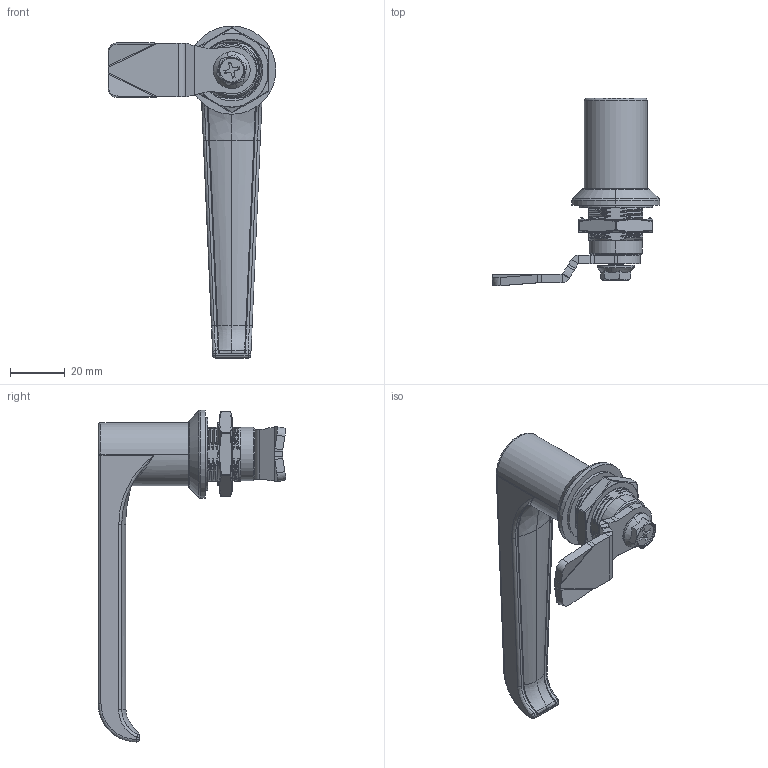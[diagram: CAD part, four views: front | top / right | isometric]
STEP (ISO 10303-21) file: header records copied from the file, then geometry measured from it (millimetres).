
FILE_DESCRIPTION (( 'STEP AP214' ), '1' );
FILE_NAME ('CUYUE B-1310-2.STEP', '2026-06-18T07:38:29', ( '' ), ( '' ), 'SwSTEP 2.0', 'SolidWorks 2020', '' );
FILE_SCHEMA (( 'AUTOMOTIVE_DESIGN' ));
Length unit declared in the file: millimetre
Products named in the file (11): B-1310-2蚾饜极_sldasm.sldasm-Part-2; B-1310-2蚾饜极_sldasm.sldasm-Part-7; B-1310-2蚾饜极_sldasm.sldasm-Part-9; B-1310-2蚾饜极_sldasm.sldasm-Part-3; B-1310-2蚾饜极_sldasm.sldasm-Part-6; B-1310-2蚾饜极_sldasm.sldasm-Part-5; B-1310-2蚾饜极_sldasm.sldasm-Part-10; CUYUE B-1310-2; B-1310-2蚾饜极_sldasm.sldasm-Part-8; B-1310-2蚾饜极_sldasm.sldasm-Part-4; B-1310-2蚾饜极_sldasm.sldasm-Part-1
Assembly tree (10 placements, depth 2):
  CUYUE B-1310-2
    B-1310-2蚾饜极_sldasm.sldasm-Part-1
    B-1310-2蚾饜极_sldasm.sldasm-Part-2
    B-1310-2蚾饜极_sldasm.sldasm-Part-3
    B-1310-2蚾饜极_sldasm.sldasm-Part-4
    B-1310-2蚾饜极_sldasm.sldasm-Part-5
    B-1310-2蚾饜极_sldasm.sldasm-Part-6
    B-1310-2蚾饜极_sldasm.sldasm-Part-7
    B-1310-2蚾饜极_sldasm.sldasm-Part-8
    B-1310-2蚾饜极_sldasm.sldasm-Part-9
    B-1310-2蚾饜极_sldasm.sldasm-Part-10
Bounding box: 61.21 x 68.4 x 121.1 mm (x, y, z)
Volume: 36523.7 mm3; surface area: 28278.1 mm2
Topology: 10 solids, 10 shells, 979 faces, 2599 edges, 1650 vertices
Faces by surface type: cylinder 325, bspline 312, plane 275, cone 47, torus 16, sphere 4
Entity records: 93655 total; most frequent: CARTESIAN_POINT 71939, ORIENTED_EDGE 5166, DIRECTION 3483, EDGE_CURVE 2583, VERTEX_POINT 1650, AXIS2_PLACEMENT_3D 1201, VECTOR 1081, LINE 1081
